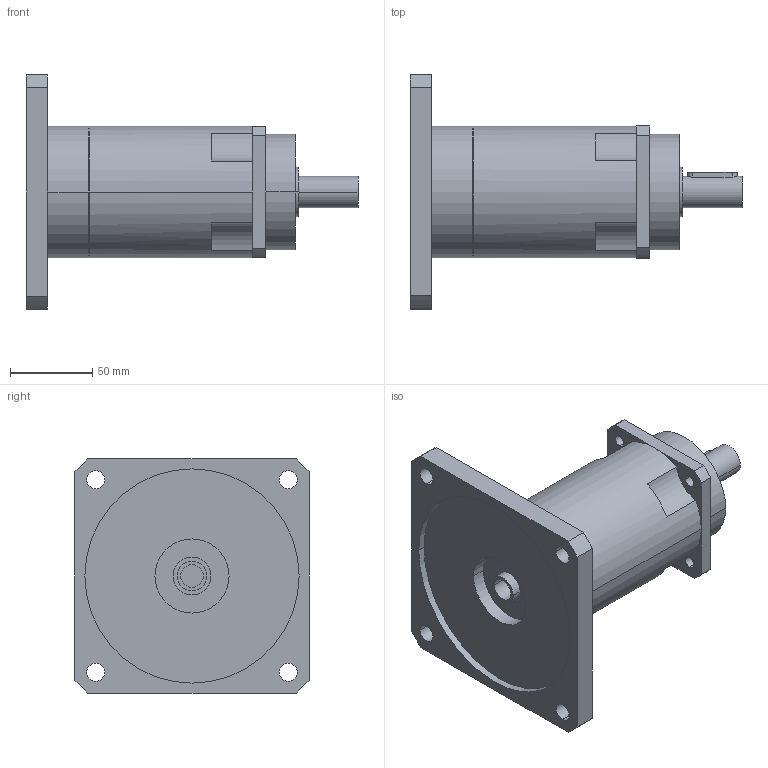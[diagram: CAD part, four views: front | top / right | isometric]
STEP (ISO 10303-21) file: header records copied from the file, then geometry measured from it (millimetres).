
FILE_DESCRIPTION(('CoCreate Modeling STEP Export'),'2;1');
FILE_NAME('GPR100_ig-48-64-80-100-120-144-180-216_19_B5_14_P16.stp','2014-08-26T11:55:10',(''),(''),'CoCreate Modeling STEP processor for AP214 (Solid Model)','CoCreate Modeling 16.00C 25-Feb-2009 (C) Parametric Technology GmbH','');
FILE_SCHEMA(('AUTOMOTIVE_DESIGN { 1 0 10303 214 1 1 1 1 }'));
Length unit declared in the file: millimetre
Products named in the file (2): GPR100_ig-48-64-80-100-120-144-180-216_19_B5_14_P16
Assembly tree (1 placements, depth 2):
  GPR100_ig-48-64-80-100-120-144-180-216_19_B5_14_P16
    GPR100_ig-48-64-80-100-120-144-180-216_19_B5_14_P16
Bounding box: 201.4 x 142 x 142 mm (x, y, z)
Volume: 926923.9 mm3; surface area: 97287.6 mm2
Topology: 1 solids, 1 shells, 89 faces, 245 edges, 167 vertices
Faces by surface type: cylinder 52, plane 31, cone 6
Entity records: 2602 total; most frequent: ORIENTED_EDGE 486, CARTESIAN_POINT 472, DIRECTION 386, EDGE_CURVE 243, VERTEX_POINT 167, AXIS2_PLACEMENT_3D 145, EDGE_LOOP 116, VECTOR 96
